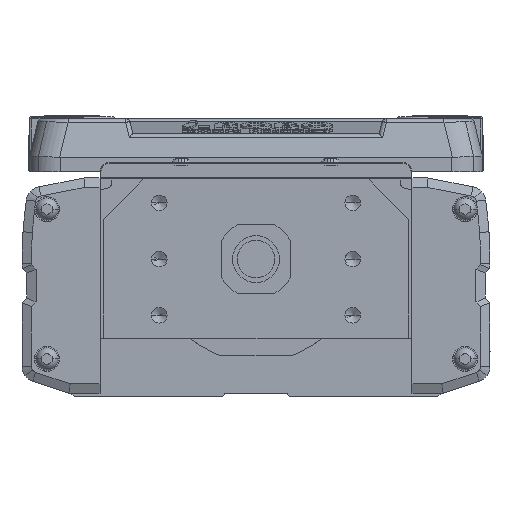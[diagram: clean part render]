
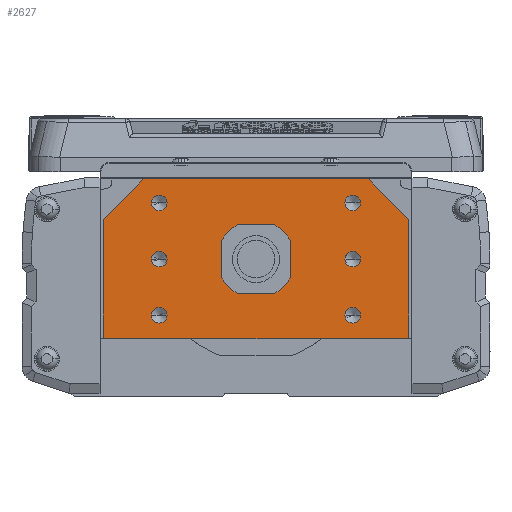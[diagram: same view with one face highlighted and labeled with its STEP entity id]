
A CAD part, left-side view. The second image highlights one B-rep face of the part: STEP entity #2627.
In plain terms, the highlighted planar face has unit normal (-1, 0, 0).
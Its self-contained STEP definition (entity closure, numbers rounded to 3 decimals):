
#2627=ADVANCED_FACE('',(#6858,#6859,#6860,#6861,#6862,#6863,#6864,#6865),#6866,.F.);
#6858=FACE_OUTER_BOUND('',#13097,.T.);
#6859=FACE_BOUND('',#13098,.T.);
#6860=FACE_BOUND('',#13099,.T.);
#6861=FACE_BOUND('',#13100,.T.);
#6862=FACE_BOUND('',#13101,.T.);
#6863=FACE_BOUND('',#13102,.T.);
#6864=FACE_BOUND('',#13103,.T.);
#6865=FACE_BOUND('',#13104,.T.);
#6866=PLANE('',#13105);
#13097=EDGE_LOOP('',(#21584,#21585,#21586,#21587,#21588,#21589,#21590,#21591));
#13098=EDGE_LOOP('',(#21592,#21593));
#13099=EDGE_LOOP('',(#21594,#21595));
#13100=EDGE_LOOP('',(#21596,#21597));
#13101=EDGE_LOOP('',(#21598,#21599));
#13102=EDGE_LOOP('',(#21600,#21601));
#13103=EDGE_LOOP('',(#21602,#21603));
#13104=EDGE_LOOP('',(#21604,#21605));
#13105=AXIS2_PLACEMENT_3D('',#21606,#21607,#21608);
#21584=ORIENTED_EDGE('',*,*,#38319,.F.);
#21585=ORIENTED_EDGE('',*,*,#38320,.F.);
#21586=ORIENTED_EDGE('',*,*,#38321,.F.);
#21587=ORIENTED_EDGE('',*,*,#37274,.F.);
#21588=ORIENTED_EDGE('',*,*,#38322,.F.);
#21589=ORIENTED_EDGE('',*,*,#38323,.F.);
#21590=ORIENTED_EDGE('',*,*,#38324,.F.);
#21591=ORIENTED_EDGE('',*,*,#38325,.F.);
#21592=ORIENTED_EDGE('',*,*,#38326,.T.);
#21593=ORIENTED_EDGE('',*,*,#38327,.T.);
#21594=ORIENTED_EDGE('',*,*,#38328,.T.);
#21595=ORIENTED_EDGE('',*,*,#38329,.T.);
#21596=ORIENTED_EDGE('',*,*,#37919,.T.);
#21597=ORIENTED_EDGE('',*,*,#38330,.T.);
#21598=ORIENTED_EDGE('',*,*,#38331,.T.);
#21599=ORIENTED_EDGE('',*,*,#37641,.T.);
#21600=ORIENTED_EDGE('',*,*,#38332,.T.);
#21601=ORIENTED_EDGE('',*,*,#38333,.T.);
#21602=ORIENTED_EDGE('',*,*,#37373,.T.);
#21603=ORIENTED_EDGE('',*,*,#38334,.T.);
#21604=ORIENTED_EDGE('',*,*,#38335,.F.);
#21605=ORIENTED_EDGE('',*,*,#38336,.F.);
#21606=CARTESIAN_POINT('',(0.,0.275,-2.548));
#21607=DIRECTION('',(1.0,0.,0.));
#21608=DIRECTION('',(0.,1.0,0.));
#37274=EDGE_CURVE('',#44165,#44167,#44168,.T.);
#37373=EDGE_CURVE('',#44336,#44340,#44342,.T.);
#37641=EDGE_CURVE('',#44822,#44820,#44823,.T.);
#37919=EDGE_CURVE('',#45305,#45309,#45311,.T.);
#38319=EDGE_CURVE('',#46031,#46032,#46033,.T.);
#38320=EDGE_CURVE('',#46034,#46031,#46035,.T.);
#38321=EDGE_CURVE('',#44167,#46034,#46036,.T.);
#38322=EDGE_CURVE('',#46037,#44165,#46038,.T.);
#38323=EDGE_CURVE('',#46039,#46037,#46040,.T.);
#38324=EDGE_CURVE('',#46041,#46039,#46042,.T.);
#38325=EDGE_CURVE('',#46032,#46041,#46043,.T.);
#38326=EDGE_CURVE('',#46044,#46045,#46046,.T.);
#38327=EDGE_CURVE('',#46045,#46044,#46047,.T.);
#38328=EDGE_CURVE('',#46048,#46049,#46050,.T.);
#38329=EDGE_CURVE('',#46049,#46048,#46051,.T.);
#38330=EDGE_CURVE('',#45309,#45305,#46052,.T.);
#38331=EDGE_CURVE('',#44820,#44822,#46053,.T.);
#38332=EDGE_CURVE('',#46054,#46055,#46056,.T.);
#38333=EDGE_CURVE('',#46055,#46054,#46057,.T.);
#38334=EDGE_CURVE('',#44340,#44336,#46058,.T.);
#38335=EDGE_CURVE('',#46059,#46060,#46061,.F.);
#38336=EDGE_CURVE('',#46060,#46059,#46062,.F.);
#44165=VERTEX_POINT('',#54203);
#44167=VERTEX_POINT('',#54206);
#44168=LINE('',#54207,#54208);
#44336=VERTEX_POINT('',#54452);
#44340=VERTEX_POINT('',#54457);
#44342=CIRCLE('',#54460,2.5);
#44820=VERTEX_POINT('',#55092);
#44822=VERTEX_POINT('',#55095);
#44823=CIRCLE('',#55096,2.5);
#45305=VERTEX_POINT('',#55718);
#45309=VERTEX_POINT('',#55723);
#45311=CIRCLE('',#55726,2.5);
#46031=VERTEX_POINT('',#56678);
#46032=VERTEX_POINT('',#56679);
#46033=LINE('',#56680,#56681);
#46034=VERTEX_POINT('',#56682);
#46035=LINE('',#56683,#56684);
#46036=LINE('',#56685,#56686);
#46037=VERTEX_POINT('',#56687);
#46038=LINE('',#56688,#56689);
#46039=VERTEX_POINT('',#56690);
#46040=LINE('',#56691,#56692);
#46041=VERTEX_POINT('',#56693);
#46042=LINE('',#56694,#56695);
#46043=LINE('',#56696,#56697);
#46044=VERTEX_POINT('',#56698);
#46045=VERTEX_POINT('',#56699);
#46046=CIRCLE('',#56700,2.5);
#46047=CIRCLE('',#56701,2.5);
#46048=VERTEX_POINT('',#56702);
#46049=VERTEX_POINT('',#56703);
#46050=CIRCLE('',#56704,2.5);
#46051=CIRCLE('',#56705,2.5);
#46052=CIRCLE('',#56706,2.5);
#46053=CIRCLE('',#56707,2.5);
#46054=VERTEX_POINT('',#56708);
#46055=VERTEX_POINT('',#56709);
#46056=CIRCLE('',#56710,2.5);
#46057=CIRCLE('',#56711,2.5);
#46058=CIRCLE('',#56712,2.5);
#46059=VERTEX_POINT('',#56713);
#46060=VERTEX_POINT('',#56714);
#46061=CIRCLE('',#56715,7.5);
#46062=CIRCLE('',#56716,7.5);
#54203=CARTESIAN_POINT('',(0.,-48.5,-25.5));
#54206=CARTESIAN_POINT('',(0.,48.5,-25.5));
#54207=CARTESIAN_POINT('',(0.,0.,-25.5));
#54208=VECTOR('',#68000,10.0);
#54452=CARTESIAN_POINT('',(0.,-33.5,0.));
#54457=CARTESIAN_POINT('',(0.,-28.5,0.));
#54460=AXIS2_PLACEMENT_3D('',#68124,#68125,#68126);
#55092=CARTESIAN_POINT('',(0.,-33.5,18.));
#55095=CARTESIAN_POINT('',(0.,-28.5,18.));
#55096=AXIS2_PLACEMENT_3D('',#68532,#68533,#68534);
#55718=CARTESIAN_POINT('',(0.,33.5,18.));
#55723=CARTESIAN_POINT('',(0.,28.5,18.));
#55726=AXIS2_PLACEMENT_3D('',#68963,#68964,#68965);
#56678=CARTESIAN_POINT('',(0.,49.,12.7));
#56679=CARTESIAN_POINT('',(0.,36.,25.7));
#56680=CARTESIAN_POINT('',(0.,37.381,24.319));
#56681=VECTOR('',#69592,10.);
#56682=CARTESIAN_POINT('',(0.,49.,-25.));
#56683=CARTESIAN_POINT('',(0.,49.,-25.));
#56684=VECTOR('',#69593,10.0);
#56685=CARTESIAN_POINT('',(0.,48.5,-25.5));
#56686=VECTOR('',#69594,10.0);
#56687=CARTESIAN_POINT('',(0.,-49.,-25.));
#56688=CARTESIAN_POINT('',(0.,-49.,-25.));
#56689=VECTOR('',#69595,10.0);
#56690=CARTESIAN_POINT('',(0.,-49.,12.7));
#56691=CARTESIAN_POINT('',(0.,-49.,-14.));
#56692=VECTOR('',#69596,10.0);
#56693=CARTESIAN_POINT('',(0.,-36.,25.7));
#56694=CARTESIAN_POINT('',(0.,-37.243,24.457));
#56695=VECTOR('',#69597,10.0);
#56696=CARTESIAN_POINT('',(0.,34.5,25.7));
#56697=VECTOR('',#69598,10.0);
#56698=CARTESIAN_POINT('',(0.,33.5,-18.));
#56699=CARTESIAN_POINT('',(0.,28.5,-18.));
#56700=AXIS2_PLACEMENT_3D('',#69599,#69600,#69601);
#56701=AXIS2_PLACEMENT_3D('',#69602,#69603,#69604);
#56702=CARTESIAN_POINT('',(0.,-33.5,-18.));
#56703=CARTESIAN_POINT('',(0.,-28.5,-18.));
#56704=AXIS2_PLACEMENT_3D('',#69605,#69606,#69607);
#56705=AXIS2_PLACEMENT_3D('',#69608,#69609,#69610);
#56706=AXIS2_PLACEMENT_3D('',#69611,#69612,#69613);
#56707=AXIS2_PLACEMENT_3D('',#69614,#69615,#69616);
#56708=CARTESIAN_POINT('',(0.,33.5,0.));
#56709=CARTESIAN_POINT('',(0.,28.5,0.));
#56710=AXIS2_PLACEMENT_3D('',#69617,#69618,#69619);
#56711=AXIS2_PLACEMENT_3D('',#69620,#69621,#69622);
#56712=AXIS2_PLACEMENT_3D('',#69623,#69624,#69625);
#56713=CARTESIAN_POINT('',(0.,7.5,0.));
#56714=CARTESIAN_POINT('',(0.,-7.5,0.));
#56715=AXIS2_PLACEMENT_3D('',#69626,#69627,#69628);
#56716=AXIS2_PLACEMENT_3D('',#69629,#69630,#69631);
#68000=DIRECTION('',(0.,1.0,0.));
#68124=CARTESIAN_POINT('',(0.,-31.,0.));
#68125=DIRECTION('',(1.0,0.,0.));
#68126=DIRECTION('',(0.,-1.0,0.));
#68532=CARTESIAN_POINT('',(0.,-31.,18.));
#68533=DIRECTION('',(1.0,0.,0.));
#68534=DIRECTION('',(0.,-1.0,0.));
#68963=CARTESIAN_POINT('',(0.,31.,18.));
#68964=DIRECTION('',(1.0,0.,0.));
#68965=DIRECTION('',(0.,1.0,0.));
#69592=DIRECTION('',(0.,-0.707,0.707));
#69593=DIRECTION('',(0.,0.,1.0));
#69594=DIRECTION('',(0.,0.707,0.707));
#69595=DIRECTION('',(0.,0.707,-0.707));
#69596=DIRECTION('',(0.,0.,-1.0));
#69597=DIRECTION('',(0.,-0.707,-0.707));
#69598=DIRECTION('',(0.,-1.0,0.));
#69599=CARTESIAN_POINT('',(0.,31.,-18.));
#69600=DIRECTION('',(1.0,0.,0.));
#69601=DIRECTION('',(0.,1.0,0.));
#69602=CARTESIAN_POINT('',(0.,31.,-18.));
#69603=DIRECTION('',(1.0,0.,0.));
#69604=DIRECTION('',(0.,1.0,0.));
#69605=CARTESIAN_POINT('',(0.,-31.,-18.));
#69606=DIRECTION('',(1.0,0.,0.));
#69607=DIRECTION('',(0.,-1.0,0.));
#69608=CARTESIAN_POINT('',(0.,-31.,-18.));
#69609=DIRECTION('',(1.0,0.,0.));
#69610=DIRECTION('',(0.,-1.0,0.));
#69611=CARTESIAN_POINT('',(0.,31.,18.));
#69612=DIRECTION('',(1.0,0.,0.));
#69613=DIRECTION('',(0.,1.0,0.));
#69614=CARTESIAN_POINT('',(0.,-31.,18.));
#69615=DIRECTION('',(1.0,0.,0.));
#69616=DIRECTION('',(0.,-1.0,0.));
#69617=CARTESIAN_POINT('',(0.,31.,0.));
#69618=DIRECTION('',(1.0,0.,0.));
#69619=DIRECTION('',(0.,1.0,0.));
#69620=CARTESIAN_POINT('',(0.,31.,0.));
#69621=DIRECTION('',(1.0,0.,0.));
#69622=DIRECTION('',(0.,1.0,0.));
#69623=CARTESIAN_POINT('',(0.,-31.,0.));
#69624=DIRECTION('',(1.0,0.,0.));
#69625=DIRECTION('',(0.,-1.0,0.));
#69626=CARTESIAN_POINT('',(0.,0.,0.));
#69627=DIRECTION('',(1.0,0.,0.));
#69628=DIRECTION('',(0.,-1.0,0.));
#69629=CARTESIAN_POINT('',(0.,0.,0.));
#69630=DIRECTION('',(1.0,0.,0.));
#69631=DIRECTION('',(0.,-1.0,0.));
